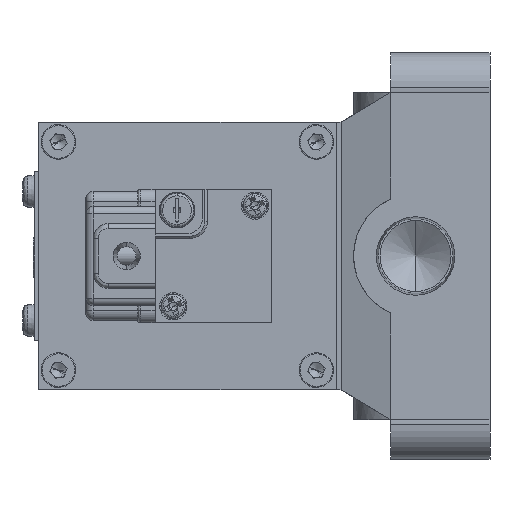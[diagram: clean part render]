
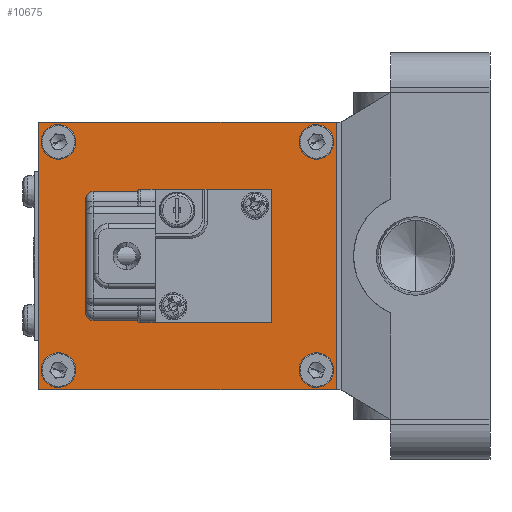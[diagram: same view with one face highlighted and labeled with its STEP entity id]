
A CAD part, left-side view. The second image highlights one B-rep face of the part: STEP entity #10675.
In plain terms, the highlighted planar face has unit normal (-1, 0, 0) as drawn and (1, 0, 0) by its records, which use the part's own axes.
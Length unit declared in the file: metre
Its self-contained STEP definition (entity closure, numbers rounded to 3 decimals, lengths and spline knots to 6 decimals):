
#127 = CIRCLE ( 'NONE', #8476, 0.002 ) ;
#325 = CARTESIAN_POINT ( 'NONE',  ( 0.051, 0.031, -0.027 ) ) ;
#426 = CIRCLE ( 'NONE', #7276, 0.002 ) ;
#483 = AXIS2_PLACEMENT_3D ( 'NONE', #13122, #9441, #9461 ) ;
#1379 = CARTESIAN_POINT ( 'NONE',  ( 0.051, 0.035, -0.023 ) ) ;
#1446 = FACE_OUTER_BOUND ( 'NONE', #7071, .T. ) ;
#1792 = EDGE_CURVE ( 'NONE', #4815, #17662, #16470, .T. ) ;
#1861 = FACE_BOUND ( 'NONE', #2057, .T. ) ;
#2057 = EDGE_LOOP ( 'NONE', ( #14018, #2690 ) ) ;
#2215 = LINE ( 'NONE', #10958, #14238 ) ;
#2217 = ORIENTED_EDGE ( 'NONE', *, *, #10840, .T. ) ;
#2365 = CARTESIAN_POINT ( 'NONE',  ( 0.051, 0.087, -0.025 ) ) ;
#2464 = CARTESIAN_POINT ( 'NONE',  ( 0.051, 0.035, -0.021 ) ) ;
#2690 = ORIENTED_EDGE ( 'NONE', *, *, #14316, .T. ) ;
#2729 = DIRECTION ( 'NONE',  ( 0., 0., -1. ) ) ;
#2764 = CARTESIAN_POINT ( 'NONE',  ( 0.051, 0.087, -0.021 ) ) ;
#2801 = CARTESIAN_POINT ( 'NONE',  ( 0.051, 0.087, 0.023 ) ) ;
#2886 = CARTESIAN_POINT ( 'NONE',  ( 0.051, 0.031, 0.027 ) ) ;
#3023 = CARTESIAN_POINT ( 'NONE',  ( 0.051, 0.031, 0.027 ) ) ;
#3041 = DIRECTION ( 'NONE',  ( -1., 0., 0. ) ) ;
#3324 = DIRECTION ( 'NONE',  ( -1., 0., 0. ) ) ;
#3432 = CIRCLE ( 'NONE', #7542, 0.002 ) ;
#3483 = CARTESIAN_POINT ( 'NONE',  ( 0.051, 0.035, 0.025 ) ) ;
#3793 = EDGE_CURVE ( 'NONE', #3867, #16876, #127, .T. ) ;
#3840 = CIRCLE ( 'NONE', #13321, 0.002 ) ;
#3862 = CARTESIAN_POINT ( 'NONE',  ( 0.051, 0.091, -0.027 ) ) ;
#3867 = VERTEX_POINT ( 'NONE', #15218 ) ;
#4112 = ORIENTED_EDGE ( 'NONE', *, *, #14904, .T. ) ;
#4122 = VERTEX_POINT ( 'NONE', #3483 ) ;
#4173 = DIRECTION ( 'NONE',  ( 0., 0., -1. ) ) ;
#4409 = AXIS2_PLACEMENT_3D ( 'NONE', #1379, #10949, #2729 ) ;
#4775 = DIRECTION ( 'NONE',  ( -1., 0., 0. ) ) ;
#4815 = VERTEX_POINT ( 'NONE', #2365 ) ;
#5042 = FACE_BOUND ( 'NONE', #12992, .T. ) ;
#5113 = EDGE_CURVE ( 'NONE', #15009, #13642, #15563, .T. ) ;
#5256 = CIRCLE ( 'NONE', #4409, 0.002 ) ;
#5335 = ORIENTED_EDGE ( 'NONE', *, *, #8568, .T. ) ;
#5340 = LINE ( 'NONE', #15905, #9005 ) ;
#5761 = DIRECTION ( 'NONE',  ( 1., 0., 0. ) ) ;
#6240 = DIRECTION ( 'NONE',  ( 0., 0., -1. ) ) ;
#6758 = CARTESIAN_POINT ( 'NONE',  ( 0.051, 0.087, 0.023 ) ) ;
#6836 = ORIENTED_EDGE ( 'NONE', *, *, #15946, .F. ) ;
#6943 = DIRECTION ( 'NONE',  ( 0., 1., 0. ) ) ;
#7023 = DIRECTION ( 'NONE',  ( 1., 0., 0. ) ) ;
#7071 = EDGE_LOOP ( 'NONE', ( #12150, #12198, #2217, #10704 ) ) ;
#7276 = AXIS2_PLACEMENT_3D ( 'NONE', #2801, #12400, #4173 ) ;
#7423 = CARTESIAN_POINT ( 'NONE',  ( 0.051, 0.091, 0. ) ) ;
#7542 = AXIS2_PLACEMENT_3D ( 'NONE', #11273, #3041, #12643 ) ;
#7949 = EDGE_CURVE ( 'NONE', #4122, #12745, #3432, .T. ) ;
#8085 = EDGE_CURVE ( 'NONE', #12511, #15009, #5340, .T. ) ;
#8153 = DIRECTION ( 'NONE',  ( 0., 0., -1. ) ) ;
#8218 = EDGE_LOOP ( 'NONE', ( #5335, #8588 ) ) ;
#8260 = CARTESIAN_POINT ( 'NONE',  ( 0.051, 0.035, -0.025 ) ) ;
#8476 = AXIS2_PLACEMENT_3D ( 'NONE', #6758, #16442, #8153 ) ;
#8568 = EDGE_CURVE ( 'NONE', #12745, #4122, #3840, .T. ) ;
#8588 = ORIENTED_EDGE ( 'NONE', *, *, #7949, .T. ) ;
#8660 = VECTOR ( 'NONE', #6943, 1. ) ;
#8707 = FACE_BOUND ( 'NONE', #8218, .T. ) ;
#9005 = VECTOR ( 'NONE', #6240, 1. ) ;
#9441 = DIRECTION ( 'NONE',  ( 1., 0., 0. ) ) ;
#9461 = DIRECTION ( 'NONE',  ( 0., 0., -1. ) ) ;
#9783 = EDGE_LOOP ( 'NONE', ( #4112, #11842 ) ) ;
#10212 = VECTOR ( 'NONE', #14302, 1. ) ;
#10675 = ADVANCED_FACE ( 'NONE', ( #8707, #12365, #1861, #5042, #1446 ), #15350, .T. ) ;
#10704 = ORIENTED_EDGE ( 'NONE', *, *, #12583, .T. ) ;
#10711 = CARTESIAN_POINT ( 'NONE',  ( 0.051, 0.087, 0.025 ) ) ;
#10840 = EDGE_CURVE ( 'NONE', #13642, #12282, #14290, .T. ) ;
#10949 = DIRECTION ( 'NONE',  ( -1., 0., 0. ) ) ;
#10958 = CARTESIAN_POINT ( 'NONE',  ( 0.051, 0.061, 0.027 ) ) ;
#11273 = CARTESIAN_POINT ( 'NONE',  ( 0.051, 0.035, 0.023 ) ) ;
#11296 = CARTESIAN_POINT ( 'NONE',  ( 0.051, 0.035, 0.021 ) ) ;
#11541 = CARTESIAN_POINT ( 'NONE',  ( 0.051, 0.035, 0.023 ) ) ;
#11842 = ORIENTED_EDGE ( 'NONE', *, *, #14111, .T. ) ;
#12150 = ORIENTED_EDGE ( 'NONE', *, *, #8085, .T. ) ;
#12198 = ORIENTED_EDGE ( 'NONE', *, *, #5113, .T. ) ;
#12256 = AXIS2_PLACEMENT_3D ( 'NONE', #13011, #4775, #14390 ) ;
#12282 = VERTEX_POINT ( 'NONE', #12768 ) ;
#12365 = FACE_BOUND ( 'NONE', #9783, .T. ) ;
#12400 = DIRECTION ( 'NONE',  ( -1., 0., 0. ) ) ;
#12511 = VERTEX_POINT ( 'NONE', #2886 ) ;
#12583 = EDGE_CURVE ( 'NONE', #12282, #12511, #2215, .T. ) ;
#12643 = DIRECTION ( 'NONE',  ( 0., 0., -1. ) ) ;
#12745 = VERTEX_POINT ( 'NONE', #11296 ) ;
#12768 = CARTESIAN_POINT ( 'NONE',  ( 0.051, 0.091, 0.027 ) ) ;
#12913 = DIRECTION ( 'NONE',  ( 0., 0., -1. ) ) ;
#12992 = EDGE_LOOP ( 'NONE', ( #16089, #6836 ) ) ;
#13011 = CARTESIAN_POINT ( 'NONE',  ( 0.051, 0.035, -0.023 ) ) ;
#13019 = CIRCLE ( 'NONE', #12256, 0.002 ) ;
#13122 = CARTESIAN_POINT ( 'NONE',  ( 0.051, 0.087, -0.023 ) ) ;
#13124 = VERTEX_POINT ( 'NONE', #2464 ) ;
#13321 = AXIS2_PLACEMENT_3D ( 'NONE', #11541, #3324, #12913 ) ;
#13586 = AXIS2_PLACEMENT_3D ( 'NONE', #3023, #5761, #15418 ) ;
#13642 = VERTEX_POINT ( 'NONE', #3862 ) ;
#14018 = ORIENTED_EDGE ( 'NONE', *, *, #3793, .T. ) ;
#14111 = EDGE_CURVE ( 'NONE', #13124, #17680, #13019, .T. ) ;
#14238 = VECTOR ( 'NONE', #16513, 1. ) ;
#14290 = LINE ( 'NONE', #7423, #10212 ) ;
#14302 = DIRECTION ( 'NONE',  ( 0., 0., 1. ) ) ;
#14316 = EDGE_CURVE ( 'NONE', #16876, #3867, #426, .T. ) ;
#14390 = DIRECTION ( 'NONE',  ( 0., 0., -1. ) ) ;
#14426 = AXIS2_PLACEMENT_3D ( 'NONE', #15311, #7023, #16716 ) ;
#14904 = EDGE_CURVE ( 'NONE', #17680, #13124, #5256, .T. ) ;
#15009 = VERTEX_POINT ( 'NONE', #325 ) ;
#15218 = CARTESIAN_POINT ( 'NONE',  ( 0.051, 0.087, 0.021 ) ) ;
#15274 = CARTESIAN_POINT ( 'NONE',  ( 0.051, 0.061, -0.027 ) ) ;
#15311 = CARTESIAN_POINT ( 'NONE',  ( 0.051, 0.087, -0.023 ) ) ;
#15350 = PLANE ( 'NONE',  #13586 ) ;
#15418 = DIRECTION ( 'NONE',  ( 0., 0., -1. ) ) ;
#15563 = LINE ( 'NONE', #15274, #8660 ) ;
#15905 = CARTESIAN_POINT ( 'NONE',  ( 0.051, 0.031, 0. ) ) ;
#15946 = EDGE_CURVE ( 'NONE', #17662, #4815, #17543, .T. ) ;
#16089 = ORIENTED_EDGE ( 'NONE', *, *, #1792, .F. ) ;
#16442 = DIRECTION ( 'NONE',  ( -1., 0., 0. ) ) ;
#16470 = CIRCLE ( 'NONE', #483, 0.002 ) ;
#16513 = DIRECTION ( 'NONE',  ( 0., -1., 0. ) ) ;
#16716 = DIRECTION ( 'NONE',  ( 0., 0., -1. ) ) ;
#16876 = VERTEX_POINT ( 'NONE', #10711 ) ;
#17543 = CIRCLE ( 'NONE', #14426, 0.002 ) ;
#17662 = VERTEX_POINT ( 'NONE', #2764 ) ;
#17680 = VERTEX_POINT ( 'NONE', #8260 ) ;
